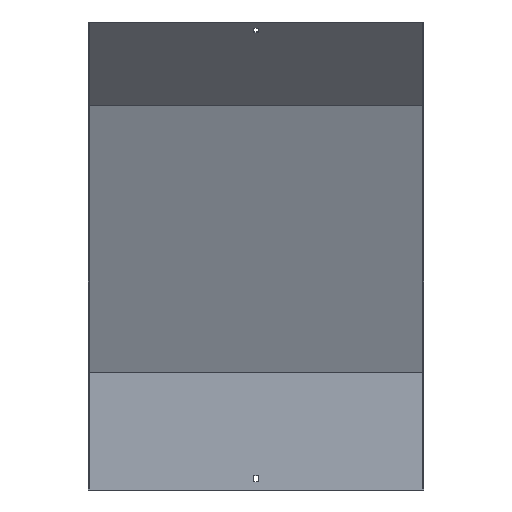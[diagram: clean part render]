
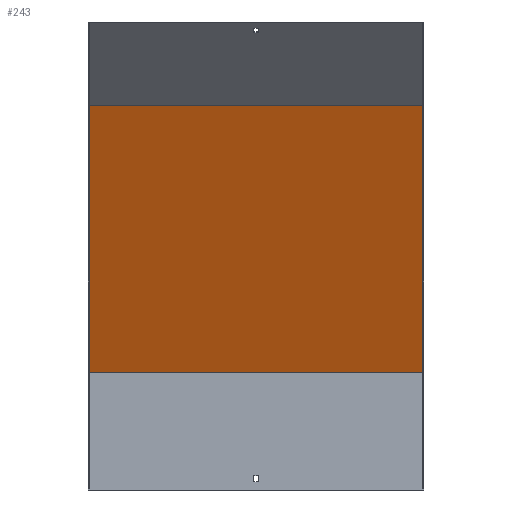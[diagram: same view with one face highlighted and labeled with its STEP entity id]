
A CAD part, front view. The second image highlights one B-rep face of the part: STEP entity #243.
In plain terms, the highlighted planar face has unit normal (0, -0.924, -0.383).
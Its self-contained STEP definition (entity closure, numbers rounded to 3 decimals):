
#21 = DIRECTION ( 'NONE',  ( 0., -0.924, -0.383 ) ) ;
#43 = EDGE_CURVE ( 'NONE', #305, #567, #140, .T. ) ;
#49 = CARTESIAN_POINT ( 'NONE',  ( 251.5, 18.5, 175.68 ) ) ;
#59 = CARTESIAN_POINT ( 'NONE',  ( 250., -147.34, 576.052 ) ) ;
#62 = DIRECTION ( 'NONE',  ( -1., 0., 0. ) ) ;
#132 = VECTOR ( 'NONE', #762, 1000. ) ;
#136 = CARTESIAN_POINT ( 'NONE',  ( -250., -147.34, 576.052 ) ) ;
#140 = LINE ( 'NONE', #339, #547 ) ;
#162 = LINE ( 'NONE', #495, #132 ) ;
#163 = VERTEX_POINT ( 'NONE', #253 ) ;
#218 = VECTOR ( 'NONE', #62, 1000. ) ;
#243 = ADVANCED_FACE ( 'NONE', ( #482 ), #474, .T. ) ;
#253 = CARTESIAN_POINT ( 'NONE',  ( -250., 18.5, 175.68 ) ) ;
#274 = ORIENTED_EDGE ( 'NONE', *, *, #412, .T. ) ;
#285 = DIRECTION ( 'NONE',  ( 0., 0.383, -0.924 ) ) ;
#305 = VERTEX_POINT ( 'NONE', #527 ) ;
#338 = AXIS2_PLACEMENT_3D ( 'NONE', #600, #21, #285 ) ;
#339 = CARTESIAN_POINT ( 'NONE',  ( 250., 77.903, 32.268 ) ) ;
#412 = EDGE_CURVE ( 'NONE', #567, #706, #162, .T. ) ;
#474 = PLANE ( 'NONE',  #338 ) ;
#482 = FACE_OUTER_BOUND ( 'NONE', #766, .T. ) ;
#495 = CARTESIAN_POINT ( 'NONE',  ( 251.5, -147.34, 576.052 ) ) ;
#527 = CARTESIAN_POINT ( 'NONE',  ( 250., 18.5, 175.68 ) ) ;
#529 = EDGE_CURVE ( 'NONE', #163, #706, #785, .T. ) ;
#547 = VECTOR ( 'NONE', #662, 1000. ) ;
#555 = ORIENTED_EDGE ( 'NONE', *, *, #661, .F. ) ;
#567 = VERTEX_POINT ( 'NONE', #59 ) ;
#570 = ORIENTED_EDGE ( 'NONE', *, *, #529, .F. ) ;
#573 = CARTESIAN_POINT ( 'NONE',  ( -250., 77.903, 32.268 ) ) ;
#600 = CARTESIAN_POINT ( 'NONE',  ( 251.5, 17.092, 179.08 ) ) ;
#644 = DIRECTION ( 'NONE',  ( 0., -0.383, 0.924 ) ) ;
#661 = EDGE_CURVE ( 'NONE', #305, #163, #703, .T. ) ;
#662 = DIRECTION ( 'NONE',  ( 0., -0.383, 0.924 ) ) ;
#679 = ORIENTED_EDGE ( 'NONE', *, *, #43, .T. ) ;
#684 = VECTOR ( 'NONE', #644, 1000. ) ;
#703 = LINE ( 'NONE', #49, #218 ) ;
#706 = VERTEX_POINT ( 'NONE', #136 ) ;
#762 = DIRECTION ( 'NONE',  ( -1., 0., 0. ) ) ;
#766 = EDGE_LOOP ( 'NONE', ( #570, #555, #679, #274 ) ) ;
#785 = LINE ( 'NONE', #573, #684 ) ;
